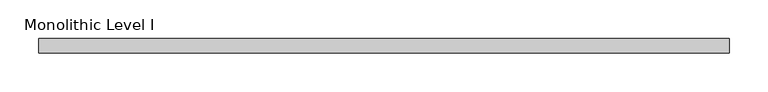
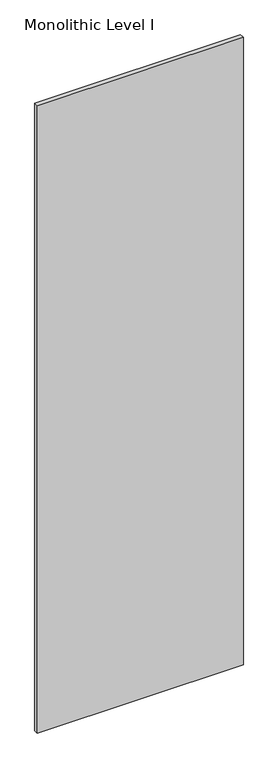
"""IFC4 building model written with IfcOpenShell, lengths in millimetres: proxy geometry, Panel-Fascia-Teknion-Altos-Standard : Monolithic Level I."""

import ifcopenshell
import ifcopenshell.guid

model = None  # the IFC model being written
_history = None  # IfcOwnerHistory: only IFC2X3 demands one
_inside = {}  # id of a spatial element -> (the spatial element, [elements in it])
_under = {}  # id of a project, library or spatial element -> (it, [spatial elements below it])
_declared = {}  # id of a project -> (the project, [libraries it declares])
_typed = {}  # id of a type object -> (the type object, [elements of that type])
_made_of = {}  # id of a material, layer set ... -> (it, [elements and type objects made of it])


def new_model(schema):
    """Start an empty IFC model of exactly this schema.

    Asked for "IFC4X3", IfcOpenShell would pick the latest addendum, in which some entities
    have other attributes; the version numbers below select the first issue.
    IFC2X3 requires an IfcOwnerHistory on every rooted entity: one is made here for all.
    """
    global model, _history
    if schema == "IFC4X3":
        model = ifcopenshell.file(schema_version=(4, 3, 0, 0))
    else:
        model = ifcopenshell.file(schema=schema)
    _inside.clear()
    _under.clear()
    _declared.clear()
    _typed.clear()
    _made_of.clear()
    _history = None
    if model.schema == "IFC2X3":
        org = make("IfcOrganization", Name="unknown")
        user = make(
            "IfcPersonAndOrganization",
            ThePerson=make("IfcPerson", FamilyName="unknown"),
            TheOrganization=org,
        )
        app = make(
            "IfcApplication",
            ApplicationDeveloper=org,
            Version="unknown",
            ApplicationFullName="unknown",
            ApplicationIdentifier="unknown",
        )
        _history = make(
            "IfcOwnerHistory",
            OwningUser=user,
            OwningApplication=app,
            ChangeAction="ADDED",
            CreationDate=0,
        )
    return model


def make(cls, **values):
    """One entity of the class cls with the attributes given. An attribute that is None is left unset."""
    return model.create_entity(
        cls, **{name: value for name, value in values.items() if value is not None}
    )


def rooted(cls, **values):
    """An entity with a GlobalId (a new one), such as an element, a storey or a relation."""
    return make(cls, GlobalId=ifcopenshell.guid.new(), OwnerHistory=_history, **values)


def si_unit(unit_type, name, prefix=None):
    """IfcSIUnit, for example si_unit("LENGTHUNIT", "METRE", prefix="MILLI")."""
    return make("IfcSIUnit", UnitType=unit_type, Prefix=prefix, Name=name)


def assignment(units):
    """IfcUnitAssignment: the units of a project."""
    return None if units is None else make("IfcUnitAssignment", Units=units)


def point(xyz):
    """IfcCartesianPoint."""
    return None if xyz is None else make("IfcCartesianPoint", Coordinates=xyz)


def direction(xyz):
    """IfcDirection."""
    return None if xyz is None else make("IfcDirection", DirectionRatios=xyz)


def frame(location, z_axis=None, x_axis=None):
    """IfcAxis2Placement3D, a coordinate frame: its origin and axes. An axis left out is left unset."""
    return make(
        "IfcAxis2Placement3D",
        Location=point(location),
        Axis=direction(z_axis),
        RefDirection=direction(x_axis),
    )


def origin():
    """The frame at (0, 0, 0) with its axes left unset."""
    return frame((0.0, 0.0, 0.0))


def place(relative_to, where):
    """IfcLocalPlacement: puts the frame where relative to a parent placement (None: the world)."""
    return make(
        "IfcLocalPlacement", PlacementRelTo=relative_to, RelativePlacement=where
    )


def context(
    kind, dimensions, precision=None, world=None, true_north=None, identifier=None
):
    """IfcGeometricRepresentationContext, for example the 3D "Model" context."""
    return make(
        "IfcGeometricRepresentationContext",
        ContextIdentifier=identifier,
        ContextType=kind,
        CoordinateSpaceDimension=dimensions,
        Precision=precision,
        WorldCoordinateSystem=world,
        TrueNorth=true_north,
    )


def project(units=None, contexts=None):
    """IfcProject with its units and contexts."""
    return rooted(
        "IfcProject",
        Name="project",
        RepresentationContexts=contexts,
        UnitsInContext=assignment(units),
    )


def spatial(cls, under=None, at=None, **own):
    """A site, building, storey or space (cls), placed at a placement, below another one or the project."""
    s = rooted(cls, ObjectPlacement=at, **own)
    if under is not None:
        _under.setdefault(under.id(), (under, []))[1].append(s)
    return s


def polyline(points):
    """IfcPolyline through the points."""
    return make("IfcPolyline", Points=[point(p) for p in points])


def outline(outer, holes=None, kind="AREA"):
    """IfcArbitraryClosedProfileDef: a profile drawn as a closed curve; with holes, ...WithVoids."""
    if holes is None:
        return make("IfcArbitraryClosedProfileDef", ProfileType=kind, OuterCurve=outer)
    return make(
        "IfcArbitraryProfileDefWithVoids",
        ProfileType=kind,
        OuterCurve=outer,
        InnerCurves=holes,
    )


def extrude(swept, where, along, depth):
    """IfcExtrudedAreaSolid: the profile swept, set in the frame where, extruded along a direction by depth."""
    return make(
        "IfcExtrudedAreaSolid",
        SweptArea=swept,
        Position=where,
        ExtrudedDirection=direction(along),
        Depth=depth,
    )


def shape(context_of_items, identifier, shape_type, items):
    """IfcShapeRepresentation: the items that make up one representation, for example the "Body"."""
    return make(
        "IfcShapeRepresentation",
        ContextOfItems=context_of_items,
        RepresentationIdentifier=identifier,
        RepresentationType=shape_type,
        Items=items,
    )


def source(mapping_origin, context_of_items, identifier, shape_type, items):
    """IfcRepresentationMap: a shape defined once, which mapped items show again and again."""
    return make(
        "IfcRepresentationMap",
        MappingOrigin=mapping_origin,
        MappedRepresentation=shape(context_of_items, identifier, shape_type, items),
    )


def transform(
    local_origin,
    x_axis=None,
    y_axis=None,
    z_axis=None,
    scale=None,
    scale2=None,
    scale3=None,
    uniform=True,
):
    """IfcCartesianTransformationOperator3D, or its non-uniform kind. x_axis, y_axis, z_axis: its Axis1, 2, 3."""
    if uniform:
        return make(
            "IfcCartesianTransformationOperator3D",
            Axis1=direction(x_axis),
            Axis2=direction(y_axis),
            LocalOrigin=point(local_origin),
            Scale=scale,
            Axis3=direction(z_axis),
        )
    return make(
        "IfcCartesianTransformationOperator3DnonUniform",
        Axis1=direction(x_axis),
        Axis2=direction(y_axis),
        LocalOrigin=point(local_origin),
        Scale=scale,
        Axis3=direction(z_axis),
        Scale2=scale2,
        Scale3=scale3,
    )


def mapped(mapping_source, mapping_target):
    """IfcMappedItem: shows the shape of a source again, moved by a transform."""
    return make(
        "IfcMappedItem", MappingSource=mapping_source, MappingTarget=mapping_target
    )


def made_of(thing, what):
    """Note that an element or type object is made of a material, layer set ...; save() writes the relation."""
    if what is not None:
        _made_of.setdefault(what.id(), (what, []))[1].append(thing)
    return thing


def element(
    cls,
    number,
    at=None,
    inside=None,
    cuts=None,
    type_object=None,
    material=None,
    context=None,
    identifier="Body",
    shape_type=None,
    held_by="IfcProductDefinitionShape",
    body=None,
    shapes=None,
    **own,
):
    """One element of the class cls, such as IfcWall. Its Tag is "e" and its number.

    at: its placement. inside: the storey or other place that contains it. cuts: it is an
    opening in that element (IfcRelVoidsElement). A single representation is given by context,
    identifier, shape_type and body (its items); several are given by shapes. held_by: the class
    of the entity that holds the representations. save() writes the other relations.
    """
    e = rooted(cls, Tag="e%d" % number, ObjectPlacement=at, **own)
    if body is not None:
        shapes = [shape(context, identifier, shape_type, body)]
    if shapes is not None:
        e.Representation = make(held_by, Representations=shapes)
    if inside is not None:
        _inside.setdefault(inside.id(), (inside, []))[1].append(e)
    if cuts is not None:
        rooted(
            "IfcRelVoidsElement", RelatingBuildingElement=cuts, RelatedOpeningElement=e
        )
    if type_object is not None:
        _typed.setdefault(type_object.id(), (type_object, []))[1].append(e)
    return made_of(e, material)


def aggregate(whole, parts):
    """IfcRelAggregates: a whole, such as a stair, and the parts it consists of."""
    return rooted("IfcRelAggregates", RelatingObject=whole, RelatedObjects=parts)


def save(model, path):
    """Write the relations noted so far, then the file.

    IfcRelAggregates (storeys below a building ...), IfcRelContainedInSpatialStructure (elements
    in a storey), IfcRelDefinesByType, IfcRelAssociatesMaterial and IfcRelDeclares: one each for
    every whole, place, type object, material and project.
    """
    for whole, parts in _under.values():
        aggregate(whole, parts)
    for where, things in _inside.values():
        rooted(
            "IfcRelContainedInSpatialStructure",
            RelatedElements=things,
            RelatingStructure=where,
        )
    for kind, things in _typed.values():
        rooted("IfcRelDefinesByType", RelatedObjects=things, RelatingType=kind)
    for what, things in _made_of.values():
        rooted("IfcRelAssociatesMaterial", RelatedObjects=things, RelatingMaterial=what)
    for by, libraries in _declared.values():
        rooted("IfcRelDeclares", RelatingContext=by, RelatedDefinitions=libraries)
    model.write(path)


def monolithic_level_i_05dcc295(model_context):
    return source(origin(), model_context, "Body", "SweptSolid", [
        extrude(outline(polyline([(447.0300781, -9.525), (-447.0300781, -9.525), (-447.0300781, 9.525), (447.0300781, 9.525), (447.0300781, -9.525)])), frame((0.0, 0.0, 3.175), z_axis=(0.0, 0.0, 1.0), x_axis=(1.0, 0.0, 0.0)), (0.0, 0.0, 1.0), 2877.693),
    ])


if __name__ == "__main__":
    model = new_model("IFC4")
    model_context = context("Model", 3, world=origin())
    ifc_project = project(units=[si_unit("LENGTHUNIT", "METRE", prefix="MILLI")], contexts=[model_context])
    site = spatial("IfcSite", under=ifc_project)
    building = spatial("IfcBuilding", under=site)
    placement = place(None, origin())
    monolithic_level_i_shape = monolithic_level_i_05dcc295(model_context)
    element("IfcBuildingElementProxy", 1, Name="Panel-Fascia-Teknion-Altos-Standard : Monolithic Level I", ObjectType="Panel-Fascia-Teknion-Altos-Standard : Monolithic Level I", at=placement, inside=building, context=model_context, shape_type="MappedRepresentation", body=[
        mapped(monolithic_level_i_shape, transform((0.0, 0.0, 0.0), x_axis=(1.0, 0.0, 0.0), y_axis=(0.0, 1.0, 0.0), z_axis=(0.0, 0.0, 1.0))),
    ])
    save(model, "model.ifc")
